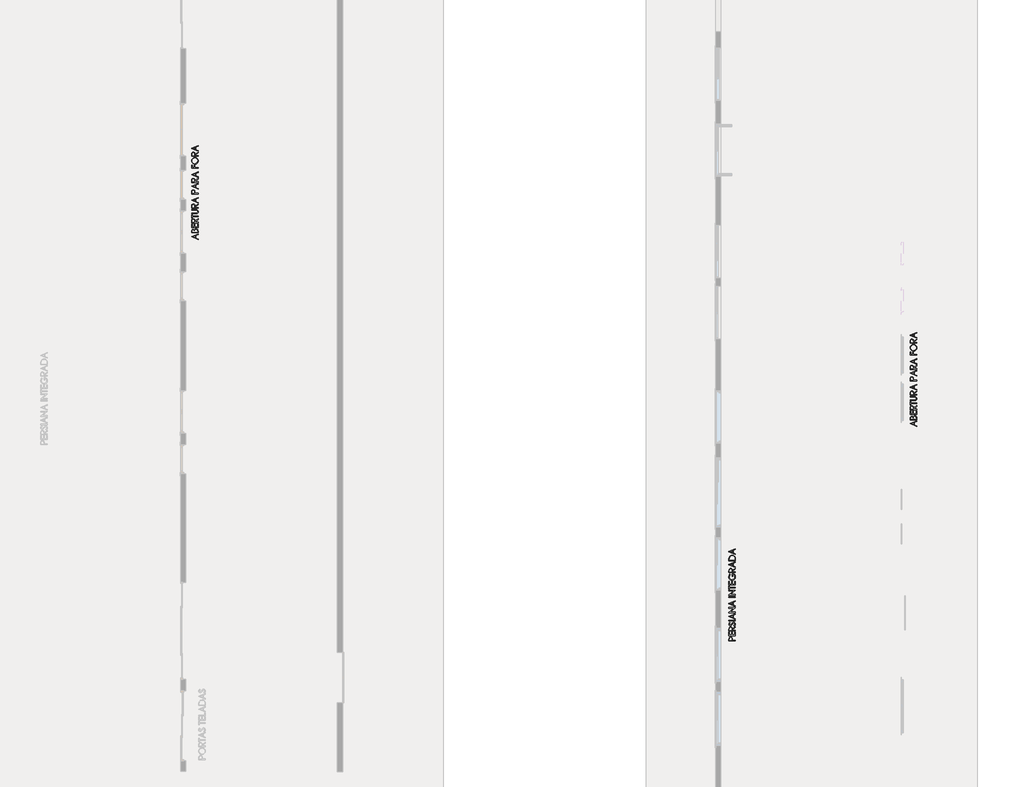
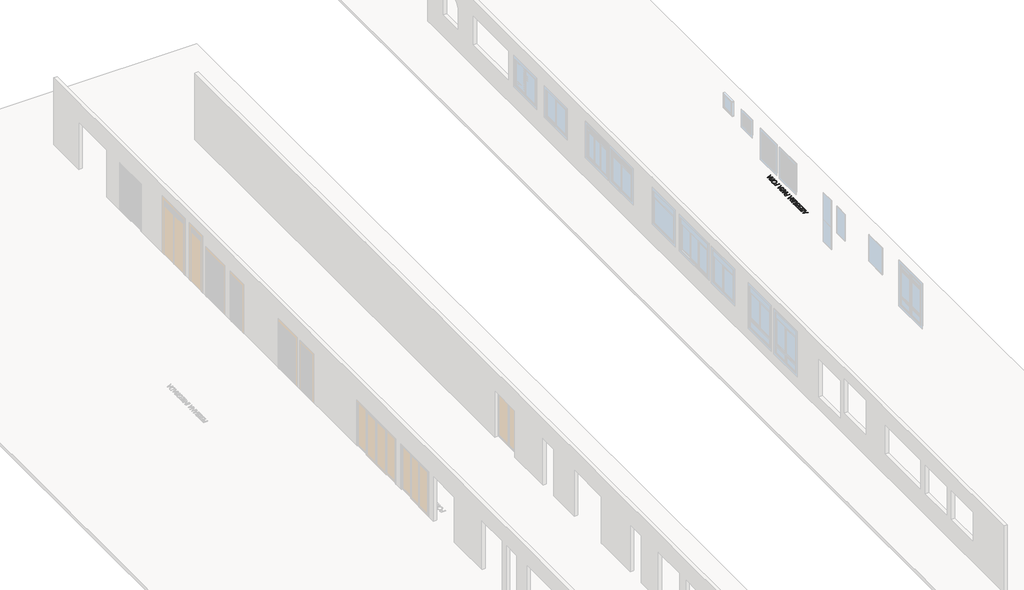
# One storey, part 14 of 15: 3 proxies.
"""IFC4 building model written with IfcOpenShell, lengths in millimetres."""

from ifc_helpers import new_model, si_unit, origin, origin_with_axes, place, context, project, spatial, polyline, outline, extrude, element, save

model = new_model("IFC4")

# Units and contexts
model_context = context("Model", 3, world=origin())
ifc_project = project(units=[si_unit("LENGTHUNIT", "METRE", prefix="MILLI")], contexts=[model_context])

# Site, building, storey
site = spatial("IfcSite", under=ifc_project)
building = spatial("IfcBuilding", under=site)
storey = spatial("IfcBuildingStorey", under=building, Name="TÉRREO", Elevation=0.0)

# Proxies
placement = place(None, origin())
element("IfcBuildingElementProxy", 1, Name="600mm Arial", ObjectType="600mm Arial", at=placement, inside=storey, context=model_context, shape_type="SweptSolid", body=[
    extrude(outline(polyline([(8740.8079467, 17820.6202208), (8929.3793753, 17902.3345065), (8929.3793753, 17882.1023637), (8863.3793753, 17853.4728994), (8863.3793753, 17784.575578), (8929.3793753, 17755.9952208), (8929.3793753, 17735.763078), (8740.8079467, 17817.4773637), (8740.8079467, 17820.6202208)]), holes=[polyline([(8783.8258039, 17818.9996851), (8847.6650896, 17791.3523637), (8847.6650896, 17846.6961137), (8783.8258039, 17818.9996851)])]), origin_with_axes(), (0.0, 0.0, 1.0), 10.0),
    extrude(outline(polyline([(8740.8079467, 17933.763078), (8740.8079467, 17970.8389708), (8742.1154244, 17990.6352878), (8746.0378574, 18005.2385244), (8752.6673217, 18015.9868503), (8762.0958932, 18024.2184351), (8773.531719, 18029.4483458), (8786.1829467, 18031.1916494), (8808.6740182, 18025.2251315), (8817.8693307, 18017.8651985), (8825.124911, 18007.7184351), (8837.0088396, 18030.2340601), (8853.5333932, 18042.5108458), (8874.5266967, 18046.9059351), (8895.7471208, 18042.7502431), (8913.4441074, 18030.2831673), (8925.3955583, 18010.8183235), (8929.3793753, 17985.669328), (8929.3793753, 17933.763078), (8740.8079467, 17933.763078)]), holes=[polyline([(8835.093661, 17952.6202208), (8913.6650896, 17952.6202208), (8913.6650896, 17976.1425423), (8909.2700003, 18006.6135244), (8895.5445539, 18022.1804887), (8875.3615182, 18028.0487923), (8862.5813842, 18025.9678771), (8851.5445539, 18019.7251315), (8842.9753574, 18009.8361806), (8837.5981253, 17996.8166494), (8835.093661, 17963.2764708), (8835.093661, 17952.6202208)]), polyline([(8756.5222324, 17952.6202208), (8819.3793753, 17952.6202208), (8819.3793753, 17963.4237923), (8815.5735717, 17992.2987923), (8803.5668753, 18006.9327208), (8785.3481253, 18012.3345065), (8773.3352905, 18010.0694396), (8764.2075003, 18003.2742387), (8758.4435494, 17991.5437699), (8756.5222324, 17974.4728994), (8756.5222324, 17952.6202208)])]), origin_with_axes(), (0.0, 0.0, 1.0), 10.0),
    extrude(outline(polyline([(8740.8079467, 18084.6202208), (8740.8079467, 18194.6202208), (8756.5222324, 18194.6202208), (8756.5222324, 18103.4773637), (8819.3793753, 18103.4773637), (8819.3793753, 18194.6202208), (8835.093661, 18194.6202208), (8835.093661, 18103.4773637), (8913.6650896, 18103.4773637), (8913.6650896, 18194.6202208), (8929.3793753, 18194.6202208), (8929.3793753, 18084.6202208), (8740.8079467, 18084.6202208)])), origin_with_axes(), (0.0, 0.0, 1.0), 10.0),
    extrude(outline(polyline([(8740.8079467, 18226.0487923), (8740.8079467, 18264.106828), (8743.2633039, 18307.1737923), (8749.1131923, 18322.5811583), (8759.1985717, 18334.8211137), (8772.8073887, 18342.8133012), (8789.2275896, 18345.4773637), (8803.1678798, 18343.6419842), (8815.328036, 18338.1358458), (8825.2169869, 18329.2228994), (8832.343661, 18317.1670958), (8836.6896432, 18300.9433235), (8838.2365182, 18279.5264708), (8929.3793753, 18348.6202208), (8929.3793753, 18325.7362923), (8838.2365182, 18256.6425423), (8838.2365182, 18244.9059351), (8929.3793753, 18244.9059351), (8929.3793753, 18226.0487923), (8740.8079467, 18226.0487923)]), holes=[polyline([(8756.5222324, 18244.9059351), (8822.5222324, 18244.9059351), (8822.718661, 18278.2496851), (8819.0356253, 18306.9282565), (8807.2253574, 18321.4148637), (8789.0802682, 18326.6202208), (8771.3771432, 18321.341203), (8759.9597324, 18307.4929887), (8756.5222324, 18279.0353994), (8756.5222324, 18244.9059351)])]), origin_with_axes(), (0.0, 0.0, 1.0), 10.0),
    extrude(outline(polyline([(8756.5222324, 18367.4773637), (8740.8079467, 18367.4773637), (8740.8079467, 18468.0487923), (8756.5222324, 18468.0487923), (8756.5222324, 18427.1916494), (8929.3793753, 18427.1916494), (8929.3793753, 18408.3345065), (8756.5222324, 18408.3345065), (8756.5222324, 18367.4773637)])), origin_with_axes(), (0.0, 0.0, 1.0), 10.0),
    extrude(outline(polyline([(8740.8079467, 18496.3345065), (8740.8079467, 18515.1916494), (8855.031161, 18515.1916494), (8880.4195539, 18515.9773637), (8899.1293753, 18522.5822744), (8911.7253574, 18538.4929887), (8916.8079467, 18560.075578), (8912.8302682, 18578.2206673), (8901.7566074, 18592.7072744), (8884.6427682, 18601.2273637), (8855.031161, 18603.1916494), (8740.8079467, 18603.1916494), (8740.8079467, 18622.0487923), (8853.7052682, 18622.0487923), (8894.1941074, 18617.0889708), (8908.6377458, 18609.6369619), (8921.0802682, 18597.200578), (8929.6617414, 18580.7128548), (8932.5222324, 18561.106828), (8929.8213396, 18539.8066048), (8921.718661, 18521.7720065), (8909.1595092, 18508.0833905), (8893.0891967, 18499.8211137), (8853.7052682, 18496.3345065), (8740.8079467, 18496.3345065)])), origin_with_axes(), (0.0, 0.0, 1.0), 10.0),
    extrude(outline(polyline([(8740.8079467, 18666.0487923), (8740.8079467, 18704.106828), (8743.2633039, 18747.1737923), (8749.1131923, 18762.5811583), (8759.1985717, 18774.8211137), (8772.8073887, 18782.8133012), (8789.2275896, 18785.4773637), (8803.1678798, 18783.6419842), (8815.328036, 18778.1358458), (8825.2169869, 18769.2228994), (8832.343661, 18757.1670958), (8836.6896432, 18740.9433235), (8838.2365182, 18719.5264708), (8929.3793753, 18788.6202208), (8929.3793753, 18765.7362923), (8838.2365182, 18696.6425423), (8838.2365182, 18684.9059351), (8929.3793753, 18684.9059351), (8929.3793753, 18666.0487923), (8740.8079467, 18666.0487923)]), holes=[polyline([(8756.5222324, 18684.9059351), (8822.5222324, 18684.9059351), (8822.718661, 18718.2496851), (8819.0356253, 18746.9282565), (8807.2253574, 18761.4148637), (8789.0802682, 18766.6202208), (8771.3771432, 18761.341203), (8759.9597324, 18747.4929887), (8756.5222324, 18719.0353994), (8756.5222324, 18684.9059351)])]), origin_with_axes(), (0.0, 0.0, 1.0), 10.0),
    extrude(outline(polyline([(8740.8079467, 18898.6202208), (8929.3793753, 18980.3345065), (8929.3793753, 18960.1023637), (8863.3793753, 18931.4728994), (8863.3793753, 18862.575578), (8929.3793753, 18833.9952208), (8929.3793753, 18813.763078), (8740.8079467, 18895.4773637), (8740.8079467, 18898.6202208)]), holes=[polyline([(8783.8258039, 18896.9996851), (8847.6650896, 18869.3523637), (8847.6650896, 18924.6961137), (8783.8258039, 18896.9996851)])]), origin_with_axes(), (0.0, 0.0, 1.0), 10.0),
    extrude(outline(polyline([(8740.8079467, 19084.0487923), (8740.8079467, 19122.106828), (8743.5088396, 19166.3032565), (8749.4016967, 19181.201136), (8759.3213396, 19193.091203), (8772.7889735, 19200.8808235), (8789.3258039, 19203.4773637), (8805.9424333, 19200.936069), (8819.3548217, 19193.3121851), (8829.2314958, 19181.231828), (8835.2409824, 19165.3211137), (8838.2365182, 19116.606828), (8838.2365182, 19102.9059351), (8929.3793753, 19102.9059351), (8929.3793753, 19084.0487923), (8740.8079467, 19084.0487923)]), holes=[polyline([(8756.5222324, 19102.9059351), (8822.5222324, 19102.9059351), (8822.8659824, 19135.7095065), (8819.2320539, 19164.8545958), (8807.4954467, 19179.341203), (8789.374911, 19184.6202208), (8771.499911, 19179.341203), (8759.9597324, 19165.4438815), (8756.5222324, 19137.1827208), (8756.5222324, 19102.9059351)])]), origin_with_axes(), (0.0, 0.0, 1.0), 10.0),
    extrude(outline(polyline([(8740.8079467, 19313.4773637), (8929.3793753, 19395.1916494), (8929.3793753, 19374.9595065), (8863.3793753, 19346.3300423), (8863.3793753, 19277.4327208), (8929.3793753, 19248.8523637), (8929.3793753, 19228.6202208), (8740.8079467, 19310.3345065), (8740.8079467, 19313.4773637)]), holes=[polyline([(8783.8258039, 19311.856828), (8847.6650896, 19284.2095065), (8847.6650896, 19339.5532565), (8783.8258039, 19311.856828)])]), origin_with_axes(), (0.0, 0.0, 1.0), 10.0),
    extrude(outline(polyline([(8740.8079467, 19426.6202208), (8740.8079467, 19464.6782565), (8743.2633039, 19507.7452208), (8749.1131923, 19523.1525869), (8759.1985717, 19535.3925423), (8772.8073887, 19543.3847298), (8789.2275896, 19546.0487923), (8803.1678798, 19544.2134128), (8815.328036, 19538.7072744), (8825.2169869, 19529.794328), (8832.343661, 19517.7385244), (8836.6896432, 19501.5147521), (8838.2365182, 19480.0978994), (8929.3793753, 19549.1916494), (8929.3793753, 19526.3077208), (8838.2365182, 19457.2139708), (8838.2365182, 19445.4773637), (8929.3793753, 19445.4773637), (8929.3793753, 19426.6202208), (8740.8079467, 19426.6202208)]), holes=[polyline([(8756.5222324, 19445.4773637), (8822.5222324, 19445.4773637), (8822.718661, 19478.8211137), (8819.0356253, 19507.4996851), (8807.2253574, 19521.9862923), (8789.0802682, 19527.1916494), (8771.3771432, 19521.9126315), (8759.9597324, 19508.0644173), (8756.5222324, 19479.606828), (8756.5222324, 19445.4773637)])]), origin_with_axes(), (0.0, 0.0, 1.0), 10.0),
    extrude(outline(polyline([(8740.8079467, 19659.1916494), (8929.3793753, 19740.9059351), (8929.3793753, 19720.6737923), (8863.3793753, 19692.044328), (8863.3793753, 19623.1470065), (8929.3793753, 19594.5666494), (8929.3793753, 19574.3345065), (8740.8079467, 19656.0487923), (8740.8079467, 19659.1916494)]), holes=[polyline([(8783.8258039, 19657.5711137), (8847.6650896, 19629.9237923), (8847.6650896, 19685.2675423), (8783.8258039, 19657.5711137)])]), origin_with_axes(), (0.0, 0.0, 1.0), 10.0),
    extrude(outline(polyline([(8740.8079467, 19844.6202208), (8740.8079467, 19942.0487923), (8756.5222324, 19942.0487923), (8756.5222324, 19863.4773637), (8819.3793753, 19863.4773637), (8819.3793753, 19942.0487923), (8835.093661, 19942.0487923), (8835.093661, 19863.4773637), (8929.3793753, 19863.4773637), (8929.3793753, 19844.6202208), (8740.8079467, 19844.6202208)])), origin_with_axes(), (0.0, 0.0, 1.0), 10.0),
    extrude(outline(polyline([(8737.6650896, 20064.9639708), (8739.4222045, 20085.4523916), (8744.6935494, 20104.1944396), (8753.4791242, 20121.1901148), (8765.7789289, 20136.4394173), (8780.6507202, 20149.0185188), (8797.1522548, 20158.0035914), (8815.2835327, 20163.3946349), (8835.0445539, 20165.1916494), (8854.6290963, 20163.3977041), (8872.6729021, 20158.0158681), (8889.1759713, 20149.0461416), (8904.1383039, 20136.4885244), (8916.5562726, 20121.3527822), (8925.4262503, 20104.6486806), (8930.7482369, 20086.3762197), (8932.5222324, 20066.5353994), (8930.7559099, 20046.4336974), (8925.4569423, 20027.9678771), (8916.6253295, 20011.1379385), (8904.2610717, 19995.9438815), (8889.3923496, 19983.36478), (8873.047344, 19974.3797074), (8855.226055, 19968.9886639), (8835.9284824, 19967.1916494), (8810.1472324, 19970.4695512), (8786.3302682, 19980.3032565), (8765.9753574, 19995.7904217), (8750.5802682, 20016.028703), (8740.8938842, 20039.5694396), (8737.6650896, 20064.9639708)]), holes=[polyline([(8753.3793753, 20065.7987923), (8756.1416521, 20045.3333905), (8764.4284824, 20025.9728994), (8777.3927682, 20009.2273637), (8794.187411, 19996.606828), (8813.9653128, 19988.6883012), (8835.8793753, 19986.0487923), (8867.264978, 19991.8925423), (8893.359286, 20009.4237923), (8910.9457815, 20035.2050423), (8916.8079467, 20065.7987923), (8914.1131923, 20087.0192164), (8906.0289289, 20106.5822744), (8893.2672101, 20123.2602878), (8876.5400896, 20135.825578), (8856.7867414, 20143.7072744), (8834.9463396, 20146.3345065), (8813.3023664, 20143.7072744), (8793.843661, 20135.825578), (8777.3068307, 20123.1804887), (8764.4284824, 20106.263078), (8756.1416521, 20086.6202208), (8753.3793753, 20065.7987923)])]), origin_with_axes(), (0.0, 0.0, 1.0), 10.0),
    extrude(outline(polyline([(8740.8079467, 20202.9059351), (8740.8079467, 20240.9639708), (8743.2633039, 20284.0309351), (8749.1131923, 20299.4383012), (8759.1985717, 20311.6782565), (8772.8073887, 20319.670444), (8789.2275896, 20322.3345065), (8803.1678798, 20320.4991271), (8815.328036, 20314.9929887), (8825.2169869, 20306.0800423), (8832.343661, 20294.0242387), (8836.6896432, 20277.8004664), (8838.2365182, 20256.3836137), (8929.3793753, 20325.4773637), (8929.3793753, 20302.5934351), (8838.2365182, 20233.4996851), (8838.2365182, 20221.763078), (8929.3793753, 20221.763078), (8929.3793753, 20202.9059351), (8740.8079467, 20202.9059351)]), holes=[polyline([(8756.5222324, 20221.763078), (8822.5222324, 20221.763078), (8822.718661, 20255.106828), (8819.0356253, 20283.7853994), (8807.2253574, 20298.2720065), (8789.0802682, 20303.4773637), (8771.3771432, 20298.1983458), (8759.9597324, 20284.3501315), (8756.5222324, 20255.8925423), (8756.5222324, 20221.763078)])]), origin_with_axes(), (0.0, 0.0, 1.0), 10.0),
    extrude(outline(polyline([(8740.8079467, 20435.4773637), (8929.3793753, 20517.1916494), (8929.3793753, 20496.9595065), (8863.3793753, 20468.3300423), (8863.3793753, 20399.4327208), (8929.3793753, 20370.8523637), (8929.3793753, 20350.6202208), (8740.8079467, 20432.3345065), (8740.8079467, 20435.4773637)]), holes=[polyline([(8783.8258039, 20433.856828), (8847.6650896, 20406.2095065), (8847.6650896, 20461.5532565), (8783.8258039, 20433.856828)])]), origin_with_axes(), (0.0, 0.0, 1.0), 10.0),
])
element("IfcBuildingElementProxy", 2, Name="600mm Arial", ObjectType="600mm Arial", at=placement, inside=storey, context=model_context, shape_type="SweptSolid", body=[
    extrude(outline(polyline([(30003.7775941, 12287.2314164), (30192.3490227, 12368.9457021), (30192.3490227, 12348.7135593), (30126.3490227, 12320.084095), (30126.3490227, 12251.1867736), (30192.3490227, 12222.6064164), (30192.3490227, 12202.3742736), (30003.7775941, 12284.0885593), (30003.7775941, 12287.2314164)]), holes=[polyline([(30046.7954512, 12285.6108807), (30110.6347369, 12257.9635593), (30110.6347369, 12313.3073093), (30046.7954512, 12285.6108807)])]), origin_with_axes(), (0.0, 0.0, 1.0), 10.0),
    extrude(outline(polyline([(30003.7775941, 12400.3742736), (30003.7775941, 12437.4501664), (30005.0850718, 12457.2464834), (30009.0075048, 12471.84972), (30015.6369691, 12482.5980459), (30025.0655405, 12490.8296307), (30036.5013664, 12496.0595414), (30049.1525941, 12497.802845), (30071.6436655, 12491.8363271), (30080.838978, 12484.4763941), (30088.0945584, 12474.3296307), (30099.9784869, 12496.8452557), (30116.5030405, 12509.1220414), (30137.4963441, 12513.5171307), (30158.7167682, 12509.3614387), (30176.4137548, 12496.8943628), (30188.3652057, 12477.4295191), (30192.3490227, 12452.2805236), (30192.3490227, 12400.3742736), (30003.7775941, 12400.3742736)]), holes=[polyline([(30019.4918798, 12419.2314164), (30082.3490227, 12419.2314164), (30082.3490227, 12430.0349878), (30078.5432191, 12458.9099878), (30066.5365227, 12473.5439164), (30048.3177727, 12478.9457021), (30036.3049378, 12476.6806352), (30027.1771477, 12469.8854343), (30021.4131968, 12458.1549655), (30019.4918798, 12441.084095), (30019.4918798, 12419.2314164)]), polyline([(30098.0633084, 12419.2314164), (30176.6347369, 12419.2314164), (30176.6347369, 12442.7537378), (30172.2396477, 12473.22472), (30158.5142012, 12488.7916843), (30138.3311655, 12494.6599878), (30125.5510316, 12492.5790727), (30114.5142012, 12486.3363271), (30105.9450048, 12476.4473762), (30100.5677727, 12463.427845), (30098.0633084, 12429.8876664), (30098.0633084, 12419.2314164)])]), origin_with_axes(), (0.0, 0.0, 1.0), 10.0),
    extrude(outline(polyline([(30003.7775941, 12551.2314164), (30003.7775941, 12661.2314164), (30019.4918798, 12661.2314164), (30019.4918798, 12570.0885593), (30082.3490227, 12570.0885593), (30082.3490227, 12661.2314164), (30098.0633084, 12661.2314164), (30098.0633084, 12570.0885593), (30176.6347369, 12570.0885593), (30176.6347369, 12661.2314164), (30192.3490227, 12661.2314164), (30192.3490227, 12551.2314164), (30003.7775941, 12551.2314164)])), origin_with_axes(), (0.0, 0.0, 1.0), 10.0),
    extrude(outline(polyline([(30003.7775941, 12692.6599878), (30003.7775941, 12730.7180236), (30006.2329512, 12773.7849878), (30012.0828396, 12789.1923539), (30022.1682191, 12801.4323093), (30035.777036, 12809.4244968), (30052.1972369, 12812.0885593), (30066.1375271, 12810.2531798), (30078.2976834, 12804.7470414), (30088.1866343, 12795.834095), (30095.3133084, 12783.7782914), (30099.6592905, 12767.5545191), (30101.2061655, 12746.1376664), (30192.3490227, 12815.2314164), (30192.3490227, 12792.3474878), (30101.2061655, 12723.2537378), (30101.2061655, 12711.5171307), (30192.3490227, 12711.5171307), (30192.3490227, 12692.6599878), (30003.7775941, 12692.6599878)]), holes=[polyline([(30019.4918798, 12711.5171307), (30085.4918798, 12711.5171307), (30085.6883084, 12744.8608807), (30082.0052727, 12773.5394521), (30070.1950048, 12788.0260593), (30052.0499155, 12793.2314164), (30034.3467905, 12787.9523986), (30022.9293798, 12774.1041843), (30019.4918798, 12745.646595), (30019.4918798, 12711.5171307)])]), origin_with_axes(), (0.0, 0.0, 1.0), 10.0),
    extrude(outline(polyline([(30019.4918798, 12834.0885593), (30003.7775941, 12834.0885593), (30003.7775941, 12934.6599878), (30019.4918798, 12934.6599878), (30019.4918798, 12893.802845), (30192.3490227, 12893.802845), (30192.3490227, 12874.9457021), (30019.4918798, 12874.9457021), (30019.4918798, 12834.0885593)])), origin_with_axes(), (0.0, 0.0, 1.0), 10.0),
    extrude(outline(polyline([(30003.7775941, 12962.9457021), (30003.7775941, 12981.802845), (30118.0008084, 12981.802845), (30143.3892012, 12982.5885593), (30162.0990227, 12989.19347), (30174.6950048, 13005.1041843), (30179.7775941, 13026.6867736), (30175.7999155, 13044.8318628), (30164.7262548, 13059.31847), (30147.6124155, 13067.8385593), (30118.0008084, 13069.802845), (30003.7775941, 13069.802845), (30003.7775941, 13088.6599878), (30116.6749155, 13088.6599878), (30157.1637548, 13083.7001664), (30171.6073932, 13076.2481575), (30184.0499155, 13063.8117736), (30192.6313887, 13047.3240503), (30195.4918798, 13027.7180236), (30192.7909869, 13006.4178003), (30184.6883084, 12988.3832021), (30172.1291566, 12974.6945861), (30156.0588441, 12966.4323093), (30116.6749155, 12962.9457021), (30003.7775941, 12962.9457021)])), origin_with_axes(), (0.0, 0.0, 1.0), 10.0),
    extrude(outline(polyline([(30003.7775941, 13132.6599878), (30003.7775941, 13170.7180236), (30006.2329512, 13213.7849878), (30012.0828396, 13229.1923539), (30022.1682191, 13241.4323093), (30035.777036, 13249.4244968), (30052.1972369, 13252.0885593), (30066.1375271, 13250.2531798), (30078.2976834, 13244.7470414), (30088.1866343, 13235.834095), (30095.3133084, 13223.7782914), (30099.6592905, 13207.5545191), (30101.2061655, 13186.1376664), (30192.3490227, 13255.2314164), (30192.3490227, 13232.3474878), (30101.2061655, 13163.2537378), (30101.2061655, 13151.5171307), (30192.3490227, 13151.5171307), (30192.3490227, 13132.6599878), (30003.7775941, 13132.6599878)]), holes=[polyline([(30019.4918798, 13151.5171307), (30085.4918798, 13151.5171307), (30085.6883084, 13184.8608807), (30082.0052727, 13213.5394521), (30070.1950048, 13228.0260593), (30052.0499155, 13233.2314164), (30034.3467905, 13227.9523986), (30022.9293798, 13214.1041843), (30019.4918798, 13185.646595), (30019.4918798, 13151.5171307)])]), origin_with_axes(), (0.0, 0.0, 1.0), 10.0),
    extrude(outline(polyline([(30003.7775941, 13365.2314164), (30192.3490227, 13446.9457021), (30192.3490227, 13426.7135593), (30126.3490227, 13398.084095), (30126.3490227, 13329.1867736), (30192.3490227, 13300.6064164), (30192.3490227, 13280.3742736), (30003.7775941, 13362.0885593), (30003.7775941, 13365.2314164)]), holes=[polyline([(30046.7954512, 13363.6108807), (30110.6347369, 13335.9635593), (30110.6347369, 13391.3073093), (30046.7954512, 13363.6108807)])]), origin_with_axes(), (0.0, 0.0, 1.0), 10.0),
    extrude(outline(polyline([(30003.7775941, 13550.6599878), (30003.7775941, 13588.7180236), (30006.4784869, 13632.9144521), (30012.3713441, 13647.8123316), (30022.2909869, 13659.7023986), (30035.7586209, 13667.4920191), (30052.2954512, 13670.0885593), (30068.9120807, 13667.5472646), (30082.3244691, 13659.9233807), (30092.2011432, 13647.8430236), (30098.2106298, 13631.9323093), (30101.2061655, 13583.2180236), (30101.2061655, 13569.5171307), (30192.3490227, 13569.5171307), (30192.3490227, 13550.6599878), (30003.7775941, 13550.6599878)]), holes=[polyline([(30019.4918798, 13569.5171307), (30085.4918798, 13569.5171307), (30085.8356298, 13602.3207021), (30082.2017012, 13631.4657914), (30070.4650941, 13645.9523986), (30052.3445584, 13651.2314164), (30034.4695584, 13645.9523986), (30022.9293798, 13632.0550771), (30019.4918798, 13603.7939164), (30019.4918798, 13569.5171307)])]), origin_with_axes(), (0.0, 0.0, 1.0), 10.0),
    extrude(outline(polyline([(30003.7775941, 13780.0885593), (30192.3490227, 13861.802845), (30192.3490227, 13841.5707021), (30126.3490227, 13812.9412378), (30126.3490227, 13744.0439164), (30192.3490227, 13715.4635593), (30192.3490227, 13695.2314164), (30003.7775941, 13776.9457021), (30003.7775941, 13780.0885593)]), holes=[polyline([(30046.7954512, 13778.4680236), (30110.6347369, 13750.8207021), (30110.6347369, 13806.1644521), (30046.7954512, 13778.4680236)])]), origin_with_axes(), (0.0, 0.0, 1.0), 10.0),
    extrude(outline(polyline([(30003.7775941, 13893.2314164), (30003.7775941, 13931.2894521), (30006.2329512, 13974.3564164), (30012.0828396, 13989.7637825), (30022.1682191, 14002.0037378), (30035.777036, 14009.9959253), (30052.1972369, 14012.6599878), (30066.1375271, 14010.8246084), (30078.2976834, 14005.31847), (30088.1866343, 13996.4055236), (30095.3133084, 13984.34972), (30099.6592905, 13968.1259477), (30101.2061655, 13946.709095), (30192.3490227, 14015.802845), (30192.3490227, 13992.9189164), (30101.2061655, 13923.8251664), (30101.2061655, 13912.0885593), (30192.3490227, 13912.0885593), (30192.3490227, 13893.2314164), (30003.7775941, 13893.2314164)]), holes=[polyline([(30019.4918798, 13912.0885593), (30085.4918798, 13912.0885593), (30085.6883084, 13945.4323093), (30082.0052727, 13974.1108807), (30070.1950048, 13988.5974878), (30052.0499155, 13993.802845), (30034.3467905, 13988.5238271), (30022.9293798, 13974.6756128), (30019.4918798, 13946.2180236), (30019.4918798, 13912.0885593)])]), origin_with_axes(), (0.0, 0.0, 1.0), 10.0),
    extrude(outline(polyline([(30003.7775941, 14125.802845), (30192.3490227, 14207.5171307), (30192.3490227, 14187.2849878), (30126.3490227, 14158.6555236), (30126.3490227, 14089.7582021), (30192.3490227, 14061.177845), (30192.3490227, 14040.9457021), (30003.7775941, 14122.6599878), (30003.7775941, 14125.802845)]), holes=[polyline([(30046.7954512, 14124.1823093), (30110.6347369, 14096.5349878), (30110.6347369, 14151.8787378), (30046.7954512, 14124.1823093)])]), origin_with_axes(), (0.0, 0.0, 1.0), 10.0),
    extrude(outline(polyline([(30003.7775941, 14311.2314164), (30003.7775941, 14408.6599878), (30019.4918798, 14408.6599878), (30019.4918798, 14330.0885593), (30082.3490227, 14330.0885593), (30082.3490227, 14408.6599878), (30098.0633084, 14408.6599878), (30098.0633084, 14330.0885593), (30192.3490227, 14330.0885593), (30192.3490227, 14311.2314164), (30003.7775941, 14311.2314164)])), origin_with_axes(), (0.0, 0.0, 1.0), 10.0),
    extrude(outline(polyline([(30000.6347369, 14531.5751664), (30002.3918519, 14552.0635872), (30007.6631968, 14570.8056352), (30016.4487715, 14587.8013104), (30028.7485762, 14603.0506128), (30043.6203675, 14615.6297144), (30060.1219021, 14624.6147869), (30078.25318, 14630.0058305), (30098.0142012, 14631.802845), (30117.5987436, 14630.0088997), (30135.6425494, 14624.6270637), (30152.1456186, 14615.6573372), (30167.1079512, 14603.09972), (30179.52592, 14587.9639778), (30188.3958977, 14571.2598762), (30193.7178843, 14552.9874153), (30195.4918798, 14533.146595), (30193.7255573, 14513.044893), (30188.4265896, 14494.5790727), (30179.5949769, 14477.749134), (30167.2307191, 14462.5550771), (30152.361997, 14449.9759756), (30136.0169914, 14440.990903), (30118.1957023, 14435.5998595), (30098.8981298, 14433.802845), (30073.1168798, 14437.0807468), (30049.2999155, 14446.9144521), (30028.9450048, 14462.4016173), (30013.5499155, 14482.6398986), (30003.8635316, 14506.1806352), (30000.6347369, 14531.5751664)]), holes=[polyline([(30016.3490227, 14532.4099878), (30019.1112994, 14511.9445861), (30027.3981298, 14492.584095), (30040.3624155, 14475.8385593), (30057.1570584, 14463.2180236), (30076.9349602, 14455.2994968), (30098.8490227, 14452.6599878), (30130.2346253, 14458.5037378), (30156.3289334, 14476.0349878), (30173.9154289, 14501.8162378), (30179.7775941, 14532.4099878), (30177.0828396, 14553.6304119), (30168.9985762, 14573.19347), (30156.2368575, 14589.8714834), (30139.5097369, 14602.4367736), (30119.7563887, 14610.31847), (30097.9159869, 14612.9457021), (30076.2720137, 14610.31847), (30056.8133084, 14602.4367736), (30040.276478, 14589.7916843), (30027.3981298, 14572.8742736), (30019.1112994, 14553.2314164), (30016.3490227, 14532.4099878)])]), origin_with_axes(), (0.0, 0.0, 1.0), 10.0),
    extrude(outline(polyline([(30003.7775941, 14669.5171307), (30003.7775941, 14707.5751664), (30006.2329512, 14750.6421307), (30012.0828396, 14766.0494968), (30022.1682191, 14778.2894521), (30035.777036, 14786.2816396), (30052.1972369, 14788.9457021), (30066.1375271, 14787.1103227), (30078.2976834, 14781.6041843), (30088.1866343, 14772.6912378), (30095.3133084, 14760.6354343), (30099.6592905, 14744.4116619), (30101.2061655, 14722.9948093), (30192.3490227, 14792.0885593), (30192.3490227, 14769.2046307), (30101.2061655, 14700.1108807), (30101.2061655, 14688.3742736), (30192.3490227, 14688.3742736), (30192.3490227, 14669.5171307), (30003.7775941, 14669.5171307)]), holes=[polyline([(30019.4918798, 14688.3742736), (30085.4918798, 14688.3742736), (30085.6883084, 14721.7180236), (30082.0052727, 14750.396595), (30070.1950048, 14764.8832021), (30052.0499155, 14770.0885593), (30034.3467905, 14764.8095414), (30022.9293798, 14750.9613271), (30019.4918798, 14722.5037378), (30019.4918798, 14688.3742736)])]), origin_with_axes(), (0.0, 0.0, 1.0), 10.0),
    extrude(outline(polyline([(30003.7775941, 14902.0885593), (30192.3490227, 14983.802845), (30192.3490227, 14963.5707021), (30126.3490227, 14934.9412378), (30126.3490227, 14866.0439164), (30192.3490227, 14837.4635593), (30192.3490227, 14817.2314164), (30003.7775941, 14898.9457021), (30003.7775941, 14902.0885593)]), holes=[polyline([(30046.7954512, 14900.4680236), (30110.6347369, 14872.8207021), (30110.6347369, 14928.1644521), (30046.7954512, 14900.4680236)])]), origin_with_axes(), (0.0, 0.0, 1.0), 10.0),
])
element("IfcBuildingElementProxy", 3, Name="600mm Arial", ObjectType="600mm Arial", at=placement, inside=storey, context=model_context, shape_type="SweptSolid", body=[
    extrude(outline(polyline([(24637.6689945, 5849.9599093), (24637.6689945, 5888.017945), (24640.3698874, 5932.2143736), (24646.2627445, 5947.1122531), (24656.1823874, 5959.00232), (24669.6500213, 5966.7919406), (24686.1868516, 5969.3884808), (24702.8034811, 5966.8471861), (24716.2158695, 5959.2233022), (24726.0925436, 5947.142945), (24732.1020302, 5931.2322308), (24735.0975659, 5882.517945), (24735.0975659, 5868.8170522), (24826.2404231, 5868.8170522), (24826.2404231, 5849.9599093), (24637.6689945, 5849.9599093)]), holes=[polyline([(24653.3832802, 5868.8170522), (24719.3832802, 5868.8170522), (24719.7270302, 5901.6206236), (24716.0931016, 5930.7657129), (24704.3564945, 5945.25232), (24686.2359588, 5950.5313379), (24668.3609588, 5945.25232), (24656.8207802, 5931.3549986), (24653.3832802, 5903.0938379), (24653.3832802, 5868.8170522)])]), origin_with_axes(), (0.0, 0.0, 1.0), 10.0),
    extrude(outline(polyline([(24637.6689945, 6007.1027665), (24637.6689945, 6117.1027665), (24653.3832802, 6117.1027665), (24653.3832802, 6025.9599093), (24716.2404231, 6025.9599093), (24716.2404231, 6117.1027665), (24731.9547088, 6117.1027665), (24731.9547088, 6025.9599093), (24810.5261374, 6025.9599093), (24810.5261374, 6117.1027665), (24826.2404231, 6117.1027665), (24826.2404231, 6007.1027665), (24637.6689945, 6007.1027665)])), origin_with_axes(), (0.0, 0.0, 1.0), 10.0),
    extrude(outline(polyline([(24637.6689945, 6148.5313379), (24637.6689945, 6186.5893736), (24640.1243516, 6229.6563379), (24645.97424, 6245.063704), (24656.0596195, 6257.3036593), (24669.6684365, 6265.2958468), (24686.0886374, 6267.9599093), (24700.0289275, 6266.1245299), (24712.1890838, 6260.6183915), (24722.0780347, 6251.705445), (24729.2047088, 6239.6496415), (24733.5506909, 6223.4258691), (24735.0975659, 6202.0090165), (24826.2404231, 6271.1027665), (24826.2404231, 6248.2188379), (24735.0975659, 6179.1250879), (24735.0975659, 6167.3884808), (24826.2404231, 6167.3884808), (24826.2404231, 6148.5313379), (24637.6689945, 6148.5313379)]), holes=[polyline([(24653.3832802, 6167.3884808), (24719.3832802, 6167.3884808), (24719.5797088, 6200.7322308), (24715.8966731, 6229.4108022), (24704.0864052, 6243.8974093), (24685.9413159, 6249.1027665), (24668.2381909, 6243.8237486), (24656.8207802, 6229.9755343), (24653.3832802, 6201.517945), (24653.3832802, 6167.3884808)])]), origin_with_axes(), (0.0, 0.0, 1.0), 10.0),
    extrude(outline(polyline([(24791.9145302, 6289.9599093), (24782.2404231, 6306.0670522), (24805.8118516, 6325.3416058), (24811.7047088, 6336.0285477), (24813.6689945, 6347.4152665), (24809.1020302, 6366.2233022), (24796.8743516, 6379.6295522), (24780.6198874, 6384.2456236), (24770.9089499, 6382.563704), (24761.4189945, 6377.517945), (24747.4971195, 6364.455445), (24730.9725659, 6343.7322308), (24705.0931016, 6312.9911593), (24691.6991284, 6305.1462933), (24677.2493516, 6302.5313379), (24665.8871865, 6304.0413825), (24655.5685481, 6308.5715165), (24646.8151999, 6315.8393736), (24640.1489052, 6325.5625879), (24634.5261374, 6349.330445), (24640.0752445, 6374.8416058), (24647.9569409, 6387.0508691), (24660.5038159, 6399.9599093), (24672.2404231, 6384.4911593), (24654.5127445, 6365.5358022), (24650.2404231, 6348.4465165), (24652.0021418, 6337.6061147), (24657.2872981, 6328.9509808), (24665.1628561, 6323.2791058), (24674.6957802, 6321.3884808), (24686.8252445, 6324.0402665), (24699.6422088, 6333.7143736), (24718.8922088, 6358.9063379), (24735.8403115, 6380.267945), (24750.8364052, 6393.674195), (24764.8871865, 6400.7456236), (24778.9993516, 6403.1027665), (24798.0038159, 6399.1128111), (24814.3564945, 6387.142945), (24825.6265838, 6369.4520968), (24829.3832802, 6348.299195), (24827.2287043, 6331.5291058), (24820.7649766, 6316.3795522), (24809.2432133, 6302.6049986), (24791.9145302, 6289.9599093)])), origin_with_axes(), (0.0, 0.0, 1.0), 10.0),
    extrude(outline(polyline([(24637.6689945, 6440.8170522), (24637.6689945, 6459.674195), (24826.2404231, 6459.674195), (24826.2404231, 6440.8170522), (24637.6689945, 6440.8170522)])), origin_with_axes(), (0.0, 0.0, 1.0), 10.0),
    extrude(outline(polyline([(24637.6689945, 6575.9599093), (24826.2404231, 6657.674195), (24826.2404231, 6637.4420522), (24760.2404231, 6608.8125879), (24760.2404231, 6539.9152665), (24826.2404231, 6511.3349093), (24826.2404231, 6491.1027665), (24637.6689945, 6572.8170522), (24637.6689945, 6575.9599093)]), holes=[polyline([(24680.6868516, 6574.3393736), (24744.5261374, 6546.6920522), (24744.5261374, 6602.0358022), (24680.6868516, 6574.3393736)])]), origin_with_axes(), (0.0, 0.0, 1.0), 10.0),
    extrude(outline(polyline([(24826.2404231, 6689.1027665), (24637.6689945, 6689.1027665), (24637.6689945, 6693.080445), (24782.6332802, 6821.1027665), (24637.6689945, 6821.1027665), (24637.6689945, 6839.9599093), (24826.2404231, 6839.9599093), (24826.2404231, 6835.6875879), (24681.5707802, 6707.9599093), (24826.2404231, 6707.9599093), (24826.2404231, 6689.1027665)])), origin_with_axes(), (0.0, 0.0, 1.0), 10.0),
    extrude(outline(polyline([(24637.6689945, 6956.2456236), (24826.2404231, 7037.9599093), (24826.2404231, 7017.7277665), (24760.2404231, 6989.0983022), (24760.2404231, 6920.2009808), (24826.2404231, 6891.6206236), (24826.2404231, 6871.3884808), (24637.6689945, 6953.1027665), (24637.6689945, 6956.2456236)]), holes=[polyline([(24680.6868516, 6954.6250879), (24744.5261374, 6926.9777665), (24744.5261374, 6982.3215165), (24680.6868516, 6954.6250879)])]), origin_with_axes(), (0.0, 0.0, 1.0), 10.0),
    extrude(outline(polyline([(24637.6689945, 7141.674195), (24637.6689945, 7160.5313379), (24826.2404231, 7160.5313379), (24826.2404231, 7141.674195), (24637.6689945, 7141.674195)])), origin_with_axes(), (0.0, 0.0, 1.0), 10.0),
    extrude(outline(polyline([(24826.2404231, 7204.5313379), (24637.6689945, 7204.5313379), (24637.6689945, 7208.5090165), (24782.6332802, 7336.5313379), (24637.6689945, 7336.5313379), (24637.6689945, 7355.3884808), (24826.2404231, 7355.3884808), (24826.2404231, 7351.1161593), (24681.5707802, 7223.3884808), (24826.2404231, 7223.3884808), (24826.2404231, 7204.5313379)])), origin_with_axes(), (0.0, 0.0, 1.0), 10.0),
    extrude(outline(polyline([(24653.3832802, 7380.5313379), (24637.6689945, 7380.5313379), (24637.6689945, 7481.1027665), (24653.3832802, 7481.1027665), (24653.3832802, 7440.2456236), (24826.2404231, 7440.2456236), (24826.2404231, 7421.3884808), (24653.3832802, 7421.3884808), (24653.3832802, 7380.5313379)])), origin_with_axes(), (0.0, 0.0, 1.0), 10.0),
    extrude(outline(polyline([(24637.6689945, 7509.3884808), (24637.6689945, 7619.3884808), (24653.3832802, 7619.3884808), (24653.3832802, 7528.2456236), (24716.2404231, 7528.2456236), (24716.2404231, 7619.3884808), (24731.9547088, 7619.3884808), (24731.9547088, 7528.2456236), (24810.5261374, 7528.2456236), (24810.5261374, 7619.3884808), (24826.2404231, 7619.3884808), (24826.2404231, 7509.3884808), (24637.6689945, 7509.3884808)])), origin_with_axes(), (0.0, 0.0, 1.0), 10.0),
    extrude(outline(polyline([(24667.7716731, 7829.9599093), (24681.6689945, 7815.2768736), (24668.0724543, 7799.126762), (24658.2203338, 7781.5157129), (24652.2354008, 7763.4135924), (24650.2404231, 7745.7902665), (24652.9965615, 7724.6496415), (24661.2649766, 7704.5402665), (24674.2599543, 7687.1501995), (24691.1957802, 7674.1674986), (24710.629932, 7666.0832352), (24731.1198874, 7663.3884808), (24752.1377445, 7666.2428334), (24772.0752445, 7674.8058915), (24789.3977891, 7688.40857), (24802.5707802, 7706.3817843), (24810.8944409, 7727.4917174), (24813.6689945, 7750.5045522), (24809.2984588, 7777.4152665), (24796.1868516, 7799.8081236), (24776.1020302, 7815.8416058), (24750.8118516, 7823.674195), (24750.8118516, 7763.9599093), (24735.0975659, 7763.9599093), (24735.0975659, 7842.5313379), (24755.6396976, 7840.8417453), (24773.9535927, 7836.0185031), (24790.0392512, 7828.0616113), (24803.8966731, 7816.97107), (24815.0470637, 7803.244089), (24823.0116284, 7787.3778781), (24827.7903673, 7769.3724372), (24829.3832802, 7749.2277665), (24827.191874, 7724.8123089), (24820.6176552, 7703.079329), (24809.660624, 7684.0288267), (24794.3207802, 7667.6608022), (24765.2125213, 7650.313704), (24731.9056016, 7644.5313379), (24706.4496865, 7647.8153781), (24682.8230124, 7657.6674986), (24662.5908695, 7673.2528781), (24647.3185481, 7693.736695), (24637.72424, 7718.1674986), (24634.5261374, 7745.5938379), (24636.5026999, 7768.2936147), (24642.4323874, 7789.642945), (24652.7203338, 7810.0592397), (24667.7716731, 7829.9599093)])), origin_with_axes(), (0.0, 0.0, 1.0), 10.0),
    extrude(outline(polyline([(24637.6689945, 7880.2456236), (24637.6689945, 7918.3036593), (24640.1243516, 7961.3706236), (24645.97424, 7976.7779897), (24656.0596195, 7989.017945), (24669.6684365, 7997.0101325), (24686.0886374, 7999.674195), (24700.0289275, 7997.8388156), (24712.1890838, 7992.3326772), (24722.0780347, 7983.4197308), (24729.2047088, 7971.3639272), (24733.5506909, 7955.1401549), (24735.0975659, 7933.7233022), (24826.2404231, 8002.8170522), (24826.2404231, 7979.9331236), (24735.0975659, 7910.8393736), (24735.0975659, 7899.1027665), (24826.2404231, 7899.1027665), (24826.2404231, 7880.2456236), (24637.6689945, 7880.2456236)]), holes=[polyline([(24653.3832802, 7899.1027665), (24719.3832802, 7899.1027665), (24719.5797088, 7932.4465165), (24715.8966731, 7961.1250879), (24704.0864052, 7975.611695), (24685.9413159, 7980.8170522), (24668.2381909, 7975.5380343), (24656.8207802, 7961.68982), (24653.3832802, 7933.2322308), (24653.3832802, 7899.1027665)])]), origin_with_axes(), (0.0, 0.0, 1.0), 10.0),
    extrude(outline(polyline([(24637.6689945, 8112.8170522), (24826.2404231, 8194.5313379), (24826.2404231, 8174.299195), (24760.2404231, 8145.6697308), (24760.2404231, 8076.7724093), (24826.2404231, 8048.1920522), (24826.2404231, 8027.9599093), (24637.6689945, 8109.674195), (24637.6689945, 8112.8170522)]), holes=[polyline([(24680.6868516, 8111.1965165), (24744.5261374, 8083.549195), (24744.5261374, 8138.892945), (24680.6868516, 8111.1965165)])]), origin_with_axes(), (0.0, 0.0, 1.0), 10.0),
    extrude(outline(polyline([(24826.2404231, 8225.9599093), (24637.6689945, 8225.9599093), (24637.6689945, 8265.392945), (24639.3631909, 8302.2478558), (24644.4457802, 8327.3661593), (24657.5942177, 8352.0363602), (24677.7895302, 8370.6541058), (24703.7794856, 8382.3477441), (24734.3118516, 8386.2456236), (24760.9463383, 8383.158012), (24784.1801552, 8373.8951772), (24802.896115, 8359.6970745), (24815.9770302, 8341.8036593), (24823.6745749, 8318.1094629), (24826.2404231, 8286.5090165), (24826.2404231, 8225.9599093)]), holes=[polyline([(24810.5261374, 8244.8170522), (24810.5261374, 8266.767945), (24809.2739052, 8300.1239718), (24805.5172088, 8321.424195), (24795.4993516, 8340.5514272), (24779.7850659, 8355.111695), (24759.1600659, 8364.3192843), (24734.4100659, 8367.3884808), (24708.3157579, 8364.0614718), (24686.3096195, 8354.080445), (24669.4842847, 8338.157454), (24658.9323874, 8317.0045522), (24654.770557, 8293.40857), (24653.3832802, 8258.2724093), (24653.3832802, 8244.8170522), (24810.5261374, 8244.8170522)])]), origin_with_axes(), (0.0, 0.0, 1.0), 10.0),
    extrude(outline(polyline([(24637.6689945, 8496.2456236), (24826.2404231, 8577.9599093), (24826.2404231, 8557.7277665), (24760.2404231, 8529.0983022), (24760.2404231, 8460.2009808), (24826.2404231, 8431.6206236), (24826.2404231, 8411.3884808), (24637.6689945, 8493.1027665), (24637.6689945, 8496.2456236)]), holes=[polyline([(24680.6868516, 8494.6250879), (24744.5261374, 8466.9777665), (24744.5261374, 8522.3215165), (24680.6868516, 8494.6250879)])]), origin_with_axes(), (0.0, 0.0, 1.0), 10.0),
])

save(model, "model.ifc")
